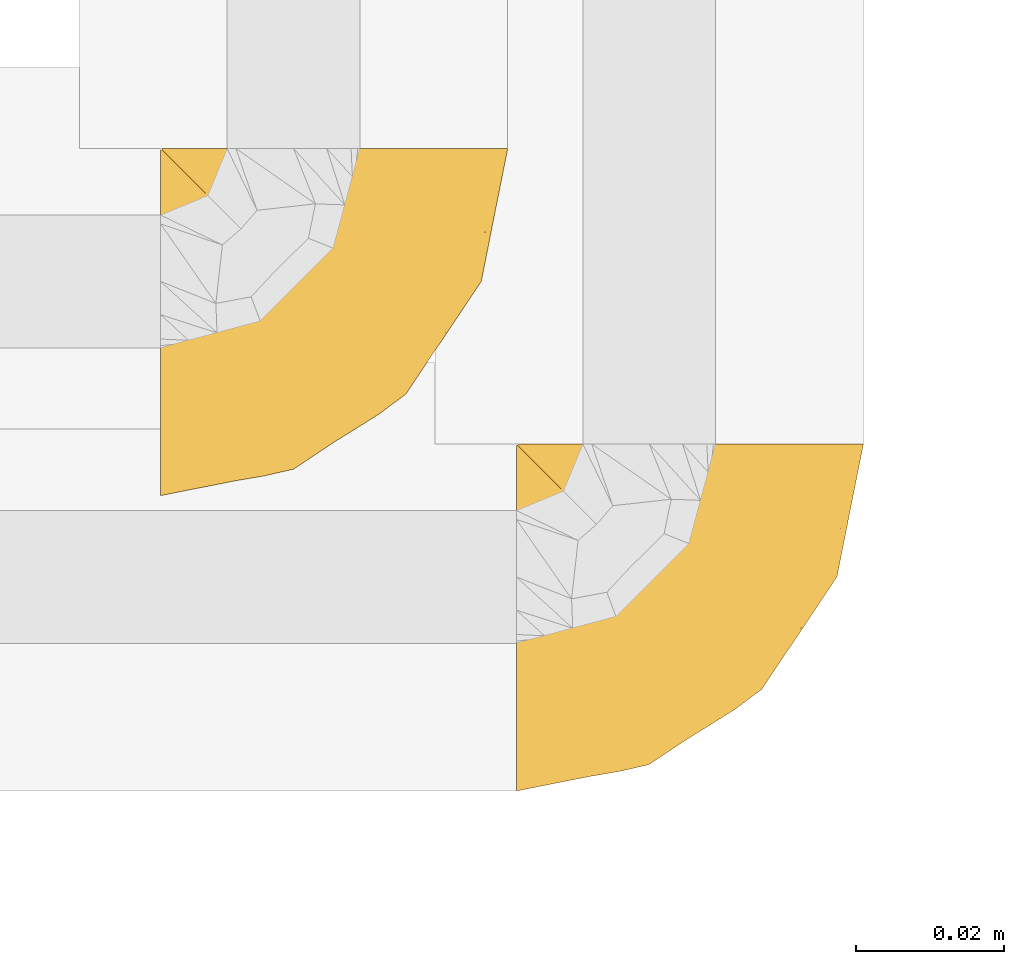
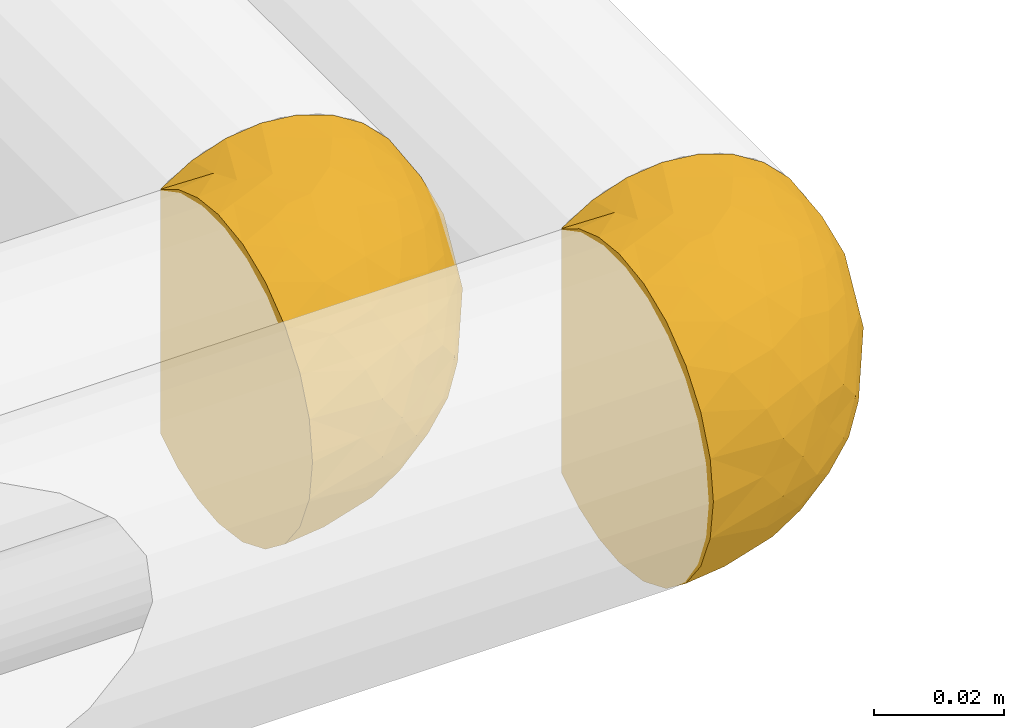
# One storey, part 3 of 13: 2 coverings.
"""IFC2X3 building model written with IfcOpenShell, lengths in millimetres."""

from ifc_helpers import new_model, entity, si_unit, converted_unit, derived_unit, direction, frame, origin_with_axes, place, context, subcontext, project, spatial, open_shell, surface_model, source, transform, mapped, element, save


model = new_model("IFC2X3")

# Units and contexts
model_context = context("Model", 3, precision=0.01, world=frame((0.0, 4.29681676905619e-09, 0.0)), true_north=direction((4.01073788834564e-13, 1.0)))
plan_context = context("Plan", 3, precision=0.01, world=frame((0.0, 4.29681676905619e-09, 0.0)), true_north=direction((4.01073788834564e-13, 1.0)))
body_context = subcontext(model_context, "Body", "Model", "MODEL_VIEW")
ifc_project = project(units=[converted_unit("PLANEANGLEUNIT", "DEGREE", entity("IfcPositiveLengthMeasure", 0.0174532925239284), si_unit("PLANEANGLEUNIT", "RADIAN"), dimensions=[0, 0, 0, 0, 0, 0, 0]), si_unit("AREAUNIT", "SQUARE_METRE"), si_unit("LENGTHUNIT", "METRE", prefix="MILLI"), si_unit("MASSUNIT", "GRAM", prefix="KILO"), si_unit("POWERUNIT", "WATT"), si_unit("PRESSUREUNIT", "PASCAL"), si_unit("FORCEUNIT", "NEWTON", prefix="KILO"), si_unit("ELECTRICVOLTAGEUNIT", "VOLT"), si_unit("ELECTRICCURRENTUNIT", "AMPERE"), si_unit("THERMODYNAMICTEMPERATUREUNIT", "DEGREE_CELSIUS"), si_unit("TIMEUNIT", "SECOND"), si_unit("VOLUMEUNIT", "CUBIC_METRE"), derived_unit("LINEARVELOCITYUNIT", [(si_unit("LENGTHUNIT", "METRE"), 1), (si_unit("TIMEUNIT", "SECOND"), -1)]), derived_unit("VOLUMETRICFLOWRATEUNIT", [(si_unit("VOLUMEUNIT", "CUBIC_METRE"), 1), (si_unit("TIMEUNIT", "SECOND"), -1)]), derived_unit("THERMALTRANSMITTANCEUNIT", [(si_unit("POWERUNIT", "WATT"), 1), (si_unit("THERMODYNAMICTEMPERATUREUNIT", "KELVIN"), -1), (si_unit("AREAUNIT", "SQUARE_METRE"), -1)]), derived_unit("SOUNDPRESSUREUNIT", [(si_unit("PRESSUREUNIT", "PASCAL"), 1)])], contexts=[model_context, plan_context])

# Site, building, storey
site_placement = place(None, frame((0.0, -4.29681676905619e-09, 0.0), z_axis=(0.0, 0.0, 1.0), x_axis=(1.0, 0.0, 0.0)))
site = spatial("IfcSite", under=ifc_project, at=site_placement, Name="ENGM", CompositionType="ELEMENT")
building_placement = place(site_placement, frame((0.0, 4.29681676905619e-09, 0.0), z_axis=(0.0, 0.0, 1.0), x_axis=(1.0, 0.0, 0.0)))
building = spatial("IfcBuilding", under=site, at=building_placement, Name="TI", CompositionType="ELEMENT")
storey_placement = place(building_placement, frame((0.0, 0.0, 210900.0), z_axis=(0.0, 0.0, 1.0), x_axis=(1.0, 0.0, 0.0)))
storey = spatial("IfcBuildingStorey", under=building, at=storey_placement, Name="Nivå F", CompositionType="ELEMENT", Elevation=210900.0)

# Coverings
shared_shape = source(origin_with_axes(), body_context, "Body", "SurfaceModel", [
    surface_model("IfcShellBasedSurfaceModel", [(12.5872, 18.0, 26.12589), (18.08563, 18.0, 22.66959), (26.13012, 18.0, 12.57843), (22.67648, 18.0, 18.07698), (-6.31725, 18.0, 28.30358), (-17.77173, 18.0, -22.9165), (0.0, 18.0, 29.0), (6.45633, 18.0, 28.27217), (-17.77173, 18.0, 22.9165), (-12.34105, 18.0, 26.24307), (28.27375, 18.0, 6.44942), (28.27217, 18.0, -6.45633), (22.66959, 18.0, -18.08563), (26.12589, 18.0, -12.5872), (18.07698, 18.0, -22.67648), (-12.3529, 18.0, -26.23749), (-6.33004, 18.0, -28.30072), (12.57843, 18.0, -26.13012), (6.44942, 18.0, -28.27375), (0.0, 18.0, -29.0), (29.0, 18.0, 0.0), (-18.0, 17.77173, 22.9165), (-18.0, 17.77173, -22.9165), (-18.0, 12.34563, -26.24091), (-18.0, 6.32509, -28.30182), (-18.0, 0.0, -29.0), (-18.0, 0.0, 29.0), (-18.0, 12.34563, 26.24091), (-18.0, 6.32509, 28.30182), (-18.0, -14.5, 25.11474), (-18.0, -7.50575, 28.01185), (-18.0, -7.50575, -28.01185), (-18.0, -14.5, -25.11474), (-18.0, -25.11474, -14.5), (-18.0, -20.5061, -20.5061), (-18.0, -29.0, 0.0), (-18.0, -28.01185, -7.50575), (-18.0, -20.5061, 20.5061), (-18.0, -28.01185, 7.50575), (-18.0, -25.11474, 14.5), (-17.83859, 17.83859, 22.9165), (-17.83859, 17.83859, -22.9165), (-11.91423, 11.9123, -27.437), (-5.27208, 5.27208, -29.0), (-15.63786, 14.48961, -25.5229), (25.93601, 6.67854, -9.58205), (27.02342, 8.06308, 0.0), (-11.58944, -10.38288, -26.79251), (-8.72435, -16.42638, -23.00725), (-2.15074, -19.82057, -17.65408), (-10.78654, -22.36781, -17.65408), (-10.90925, -4.53647, -28.44912), (-4.56412, -7.81008, -26.79251), (1.42942, -22.15165, -11.53878), (4.08186, -22.64535, -6.52508), (-4.04847, -26.34204, -5.44064), (-6.34693, -25.25014, -11.09782), (8.70204, 11.12014, -27.37401), (12.30526, -12.14334, -15.12435), (15.68692, -5.11925, -17.84797), (18.58838, -6.20359, -13.10629), (-1.45635, 14.48406, -29.0), (20.49628, -7.02537, -7.85654), (-14.48406, 1.45635, -29.0), (17.63513, 1.45693, -19.69333), (20.97621, 0.92546, -15.43347), (14.81555, 11.64794, -24.55768), (19.28448, 8.39344, -20.51001), (12.61582, 4.58807, -24.55768), (4.16849, 4.09476, -27.82577), (3.89702, -4.58536, -25.68841), (-2.23671, -1.20763, -28.17991), (0.57021, -13.0879, -22.56817), (9.4476, -9.00088, -20.51001), (23.77672, 9.91353, -15.43347), (25.42234, 0.01388, 0.0), (15.09054, -13.36351, -8.92567), (-8.45406, 3.95406, -29.0), (-6.64688, -2.8871, -28.41954), (-11.63604, 2.63604, -29.0), (-2.9127, 10.96811, -29.0), (15.23402, -15.23402, 0.0), (20.32818, -7.61007, 0.0), (8.70429, -18.28971, -10.43847), (11.53611, -17.98985, -5.04364), (5.36399, -15.33486, -18.03817), (-8.06308, -27.02342, 0.0), (8.1898, 0.02909, -25.52631), (12.51117, -2.09819, -22.30296), (-4.09239, 8.1201, -29.0), (-0.01388, -25.42234, 0.0), (7.61007, -20.32818, 0.0), (-2.15312, -19.82156, 17.65408), (0.57215, -13.08608, 22.56863), (-8.72508, -16.42658, 23.00725), (-4.04847, -26.34203, 5.4407), (-10.78795, -22.36806, 17.65408), (-6.34785, -25.25039, 11.09782), (25.939, 6.67899, 9.57411), (1.43206, -22.14749, 11.54476), (-11.58944, -10.38288, 26.79251), (20.50587, -7.01305, 7.85179), (20.98134, 0.92337, 15.42467), (4.16859, 4.08516, 27.82424), (8.70955, 11.11747, 27.37123), (-2.9127, 10.96811, 29.0), (8.71076, -18.28571, 10.43687), (11.53628, -17.99007, 5.04207), (15.09914, -13.35631, 8.92169), (12.51139, -2.10414, 22.30009), (8.20363, 0.03075, 25.52066), (3.90743, -4.56802, 25.69113), (-2.23663, -1.20773, 28.17988), (-6.92531, -2.24067, 28.55295), (-4.56412, -7.81008, 26.79251), (15.69231, -5.11628, 17.84442), (9.45318, -9.00636, 20.50219), (12.31497, -12.1393, 15.11775), (23.78211, 9.91229, 15.42467), (19.29205, 8.39148, 20.50219), (14.82422, 11.64641, 24.55215), (12.62384, 4.58443, 24.55215), (17.64599, 1.45836, 19.68333), (-11.63604, 2.63604, 29.0), (-14.48406, 1.45635, 29.0), (-10.90925, -4.53647, 28.44912), (5.3697, -15.3417, 18.027), (-1.45635, 14.48406, 29.0), (4.08207, -22.64476, 6.52689), (-5.27208, 5.27208, 29.0), (-4.09239, 8.1201, 29.0), (-8.45406, 3.95406, 29.0), (18.10711, -6.95019, 13.06771), (-11.91423, 11.9123, 27.437), (-10.60868, 7.01569, 28.60662)], [open_shell([[[0, 1, 2]], [[2, 1, 3]], [[4, 0, 5]], [[6, 7, 0]], [[5, 8, 9]], [[5, 9, 4]], [[6, 0, 4]], [[10, 11, 5]], [[11, 12, 5]], [[12, 11, 13]], [[14, 5, 12]], [[15, 5, 16]], [[17, 5, 14]], [[18, 5, 17]], [[19, 16, 5]], [[19, 5, 18]], [[11, 10, 20]], [[21, 22, 23]], [[24, 25, 23]], [[26, 23, 25]], [[27, 21, 28]], [[21, 26, 28]], [[21, 23, 26]], [[26, 29, 30]], [[26, 25, 29]], [[31, 32, 33]], [[31, 33, 29]], [[33, 32, 34]], [[35, 33, 36]], [[29, 33, 37]], [[33, 38, 39]], [[39, 37, 33]], [[38, 33, 35]], [[31, 29, 25]], [[22, 21, 40]], [[41, 22, 40]], [[8, 5, 40]], [[41, 40, 5]], [[42, 24, 23]], [[25, 24, 43]], [[43, 24, 42]], [[42, 23, 44]], [[22, 41, 44]], [[41, 5, 15]], [[19, 43, 16]], [[15, 44, 41]], [[22, 44, 23]], [[15, 16, 42]], [[15, 42, 44]], [[43, 42, 16]], [[45, 11, 46]], [[32, 31, 47]], [[45, 13, 11]], [[48, 49, 50]], [[47, 51, 52]], [[53, 54, 55]], [[55, 36, 56]], [[17, 57, 18]], [[50, 33, 34]], [[34, 32, 48]], [[58, 59, 60]], [[33, 50, 56]], [[18, 61, 19]], [[45, 62, 60]], [[31, 25, 63]], [[64, 65, 59]], [[66, 67, 68]], [[69, 70, 71]], [[17, 66, 57]], [[66, 17, 14]], [[72, 70, 73]], [[67, 14, 12]], [[74, 67, 12]], [[62, 45, 75]], [[64, 67, 65]], [[58, 60, 76]], [[12, 13, 74]], [[49, 48, 72]], [[75, 45, 46]], [[65, 74, 45]], [[33, 56, 36]], [[77, 78, 79]], [[69, 80, 57]], [[57, 61, 18]], [[81, 62, 82]], [[69, 57, 68]], [[83, 84, 54]], [[47, 48, 32]], [[72, 73, 85]], [[53, 83, 54]], [[36, 55, 86]], [[58, 85, 73]], [[43, 69, 71]], [[70, 87, 88]], [[69, 43, 89]], [[11, 20, 46]], [[45, 74, 13]], [[67, 74, 65]], [[67, 66, 14]], [[57, 66, 68]], [[63, 51, 31]], [[48, 47, 52]], [[48, 52, 72]], [[70, 72, 52]], [[52, 51, 78]], [[88, 87, 68]], [[51, 63, 79]], [[71, 77, 43]], [[31, 51, 47]], [[71, 52, 78]], [[79, 78, 51]], [[52, 71, 70]], [[86, 55, 90]], [[86, 35, 36]], [[84, 81, 91]], [[91, 90, 54]], [[55, 54, 90]], [[76, 84, 83]], [[91, 54, 84]], [[53, 55, 56]], [[56, 49, 53]], [[85, 53, 49]], [[58, 76, 83]], [[76, 62, 81]], [[83, 53, 85]], [[59, 58, 73]], [[83, 85, 58]], [[72, 85, 49]], [[88, 59, 73]], [[60, 59, 65]], [[70, 88, 73]], [[64, 68, 67]], [[70, 69, 87]], [[69, 68, 87]], [[45, 60, 65]], [[60, 62, 76]], [[59, 88, 64]], [[68, 64, 88]], [[48, 50, 34]], [[56, 50, 49]], [[57, 80, 61]], [[62, 75, 82]], [[81, 84, 76]], [[89, 80, 69]], [[77, 71, 78]], [[92, 93, 94]], [[90, 95, 86]], [[96, 97, 92]], [[2, 98, 10]], [[39, 38, 97]], [[95, 99, 97]], [[30, 29, 100]], [[101, 98, 102]], [[103, 104, 105]], [[104, 0, 7]], [[106, 107, 108]], [[29, 37, 94]], [[109, 110, 111]], [[112, 113, 114]], [[37, 39, 96]], [[115, 116, 117]], [[102, 118, 119]], [[1, 119, 3]], [[37, 96, 94]], [[98, 2, 118]], [[98, 46, 10]], [[1, 0, 120]], [[121, 109, 122]], [[121, 104, 103]], [[104, 121, 120]], [[101, 75, 98]], [[109, 116, 115]], [[123, 124, 125]], [[117, 126, 106]], [[93, 111, 114]], [[30, 124, 26]], [[120, 119, 1]], [[81, 101, 108]], [[2, 3, 118]], [[7, 127, 104]], [[119, 118, 3]], [[101, 81, 82]], [[38, 86, 95]], [[95, 128, 99]], [[90, 91, 128]], [[106, 108, 117]], [[92, 126, 93]], [[100, 94, 114]], [[129, 103, 130]], [[112, 131, 113]], [[46, 98, 75]], [[46, 20, 10]], [[98, 118, 102]], [[104, 120, 0]], [[119, 120, 121]], [[94, 100, 29]], [[125, 30, 100]], [[111, 93, 116]], [[114, 94, 93]], [[111, 116, 109]], [[103, 129, 112]], [[112, 114, 111]], [[30, 125, 124]], [[114, 125, 100]], [[131, 112, 129]], [[125, 113, 123]], [[103, 112, 111]], [[38, 35, 86]], [[107, 128, 91]], [[38, 95, 97]], [[108, 107, 81]], [[81, 107, 91]], [[128, 107, 106]], [[128, 106, 99]], [[128, 95, 90]], [[126, 99, 106]], [[92, 97, 99]], [[103, 105, 130]], [[115, 132, 102]], [[108, 101, 132]], [[126, 117, 116]], [[132, 115, 117]], [[102, 119, 122]], [[122, 115, 102]], [[109, 121, 110]], [[121, 103, 110]], [[103, 111, 110]], [[93, 126, 116]], [[126, 92, 99]], [[108, 132, 117]], [[102, 132, 101]], [[121, 122, 119]], [[109, 115, 122]], [[97, 96, 39]], [[94, 96, 92]], [[127, 7, 6]], [[127, 105, 104]], [[82, 75, 101]], [[123, 113, 131]], [[114, 113, 125]], [[133, 27, 28]], [[21, 27, 40]], [[40, 27, 133]], [[133, 28, 134]], [[26, 129, 134]], [[129, 6, 4]], [[8, 40, 9]], [[4, 134, 129]], [[26, 134, 28]], [[4, 9, 133]], [[4, 133, 134]], [[40, 133, 9]], [[2, 10, 0]], [[5, 0, 10]]])]),
])
for number, where, z_axis, x_axis in (
    (1, (609069.65402, 697419.51267, 2700.0), (0.0, 0.0, 1.0), (1.0, 0.0, 0.0)),
    (2, (609117.81817, 697379.51267, 2700.0), (0.0, 0.0, 1.0), (1.0, 0.0, 0.0)),
):
    element("IfcCovering", number, at=place(storey_placement, frame(where, z_axis=z_axis, x_axis=x_axis)), inside=storey, Name="BI10T - Cellegummi 18-32 mm kalde rør", PredefinedType="INSULATION", context=body_context, shape_type="MappedRepresentation", body=[
        mapped(shared_shape, transform((0.0, 0.0, 0.0), scale=1.0)),
    ])

save(model, "model.ifc")
